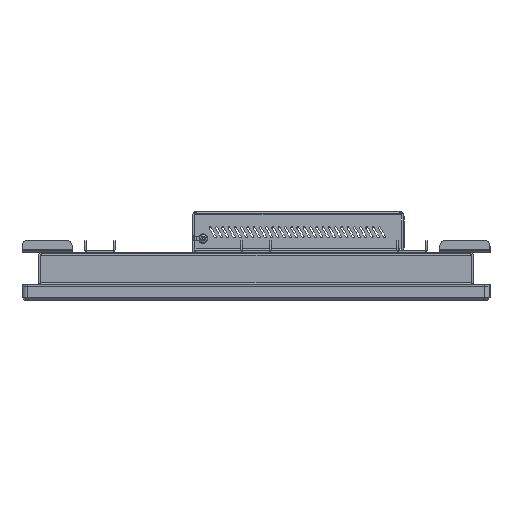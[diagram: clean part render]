
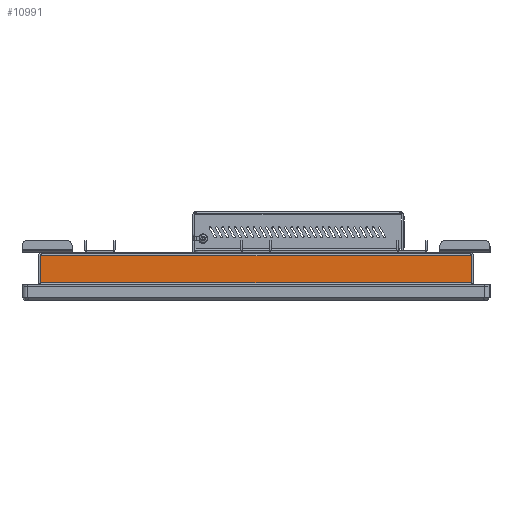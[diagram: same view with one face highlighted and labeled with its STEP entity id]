
A CAD part, left-side view. The second image highlights one B-rep face of the part: STEP entity #10991.
In plain terms, the highlighted planar face has unit normal (-1, 0, 0).
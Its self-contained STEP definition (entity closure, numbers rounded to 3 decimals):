
#10991=ADVANCED_FACE('',(#48317),#48319,.T.);
#48317=FACE_BOUND('',#48318,.T.);
#48318=EDGE_LOOP('',(#77358,#77359,#77360,#77361));
#48319=PLANE('',#48320);
#48320=AXIS2_PLACEMENT_3D('',#48321,#48322,#48323);
#48321=CARTESIAN_POINT('',(-557.75,-169.45,307.646));
#48322=DIRECTION('',(-1.,0.,0.));
#48323=DIRECTION('',(0.,0.,-1.));
#77358=ORIENTED_EDGE('',*,*,#101083,.T.);
#77359=ORIENTED_EDGE('',*,*,#99080,.T.);
#77360=ORIENTED_EDGE('',*,*,#99079,.T.);
#77361=ORIENTED_EDGE('',*,*,#99087,.T.);
#99079=EDGE_CURVE('',#109823,#109831,#111899,.T.);
#99080=EDGE_CURVE('',#111900,#109823,#111901,.T.);
#99087=EDGE_CURVE('',#109831,#111909,#111911,.T.);
#101083=EDGE_CURVE('',#111909,#111900,#114939,.T.);
#109823=VERTEX_POINT('',#130059);
#109831=VERTEX_POINT('',#130091);
#111899=LINE('',#134873,#134874);
#111900=VERTEX_POINT('',#134876);
#111901=LINE('',#134877,#134878);
#111909=VERTEX_POINT('',#134933);
#111911=LINE('',#134937,#134938);
#114939=LINE('',#142580,#142581);
#130059=CARTESIAN_POINT('',(-557.75,-10.733,13.1));
#130091=CARTESIAN_POINT('',(-557.75,-328.167,13.1));
#134873=CARTESIAN_POINT('',(-557.75,-10.733,13.1));
#134874=VECTOR('',#134875,1.);
#134875=DIRECTION('',(0.,-1.,0.));
#134876=CARTESIAN_POINT('',(-557.75,-10.733,33.1));
#134877=CARTESIAN_POINT('',(-557.75,-10.733,33.1));
#134878=VECTOR('',#134879,1.);
#134879=DIRECTION('',(0.,0.,-1.));
#134933=CARTESIAN_POINT('',(-557.75,-328.167,33.1));
#134937=CARTESIAN_POINT('',(-557.75,-328.167,13.1));
#134938=VECTOR('',#134939,1.);
#134939=DIRECTION('',(0.,0.,1.));
#142580=CARTESIAN_POINT('',(-557.75,-328.167,33.1));
#142581=VECTOR('',#142582,1.);
#142582=DIRECTION('',(0.,1.,0.));
